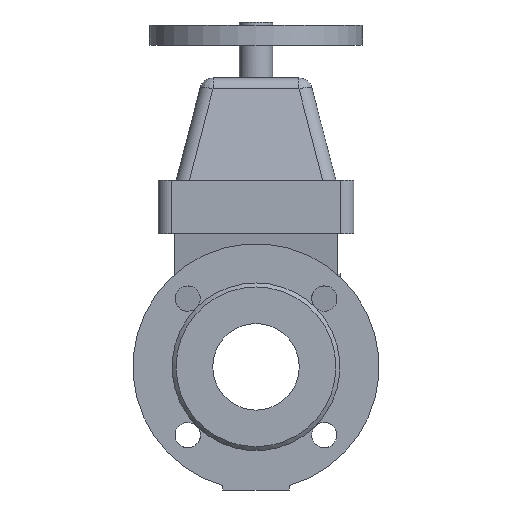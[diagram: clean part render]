
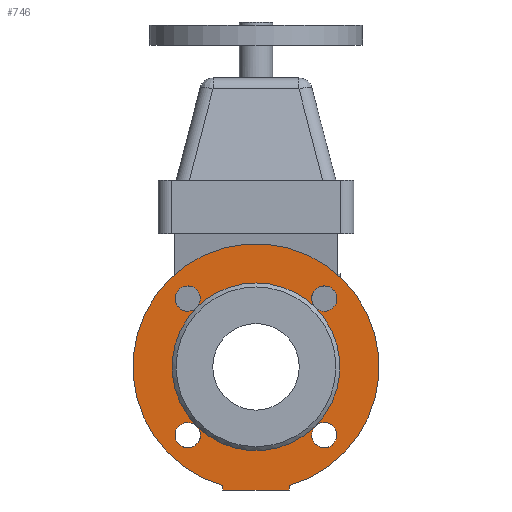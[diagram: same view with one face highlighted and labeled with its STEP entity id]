
A CAD part, front view. The second image highlights one B-rep face of the part: STEP entity #746.
In plain terms, the highlighted planar face has unit normal (0, -1, 0).
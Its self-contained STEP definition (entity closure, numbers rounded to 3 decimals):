
#746=ADVANCED_FACE('',(#1757,#1759,#1761,#1763,#1765,#1767),#1769,.T.);
#1757=FACE_BOUND('',#1758,.T.);
#1758=EDGE_LOOP('',(#2284,#2285,#2286,#2287));
#1759=FACE_BOUND('',#1760,.T.);
#1760=EDGE_LOOP('',(#2288));
#1761=FACE_BOUND('',#1762,.T.);
#1762=EDGE_LOOP('',(#2289));
#1763=FACE_BOUND('',#1764,.T.);
#1764=EDGE_LOOP('',(#2290));
#1765=FACE_BOUND('',#1766,.T.);
#1766=EDGE_LOOP('',(#2291));
#1767=FACE_BOUND('',#1768,.T.);
#1768=EDGE_LOOP('',(#2292));
#1769=PLANE('',#1770);
#1770=AXIS2_PLACEMENT_3D('',#1771,#1772,#1773);
#1771=CARTESIAN_POINT('',(0.,-132.,0.));
#1772=DIRECTION('',(0.,-1.,0.));
#1773=DIRECTION('',(0.,0.,1.));
#2284=ORIENTED_EDGE('',*,*,#2502,.T.);
#2285=ORIENTED_EDGE('',*,*,#2501,.F.);
#2286=ORIENTED_EDGE('',*,*,#2498,.F.);
#2287=ORIENTED_EDGE('',*,*,#2497,.F.);
#2288=ORIENTED_EDGE('',*,*,#2505,.T.);
#2289=ORIENTED_EDGE('',*,*,#2503,.T.);
#2290=ORIENTED_EDGE('',*,*,#2506,.T.);
#2291=ORIENTED_EDGE('',*,*,#2504,.T.);
#2292=ORIENTED_EDGE('',*,*,#2520,.T.);
#2497=EDGE_CURVE('',#2817,#2815,#2819,.T.);
#2498=EDGE_CURVE('',#2815,#2820,#2821,.T.);
#2501=EDGE_CURVE('',#2820,#2823,#2825,.T.);
#2502=EDGE_CURVE('',#2817,#2823,#2826,.T.);
#2503=EDGE_CURVE('',#2827,#2827,#2828,.F.);
#2504=EDGE_CURVE('',#2829,#2829,#2830,.F.);
#2505=EDGE_CURVE('',#2831,#2831,#2832,.F.);
#2506=EDGE_CURVE('',#2833,#2833,#2834,.F.);
#2520=EDGE_CURVE('',#2853,#2853,#2854,.T.);
#2815=VERTEX_POINT('',#3548);
#2817=VERTEX_POINT('',#3552);
#2819=CIRCLE('',#3556,92.5);
#2820=VERTEX_POINT('',#3560);
#2821=LINE('',#3561,#3562);
#2823=VERTEX_POINT('',#3567);
#2825=LINE('',#3571,#3572);
#2826=LINE('',#3574,#3575);
#2827=VERTEX_POINT('',#3577);
#2828=CIRCLE('',#3578,9.5);
#2829=VERTEX_POINT('',#3582);
#2830=CIRCLE('',#3583,9.5);
#2831=VERTEX_POINT('',#3587);
#2832=CIRCLE('',#3588,9.5);
#2833=VERTEX_POINT('',#3592);
#2834=CIRCLE('',#3593,9.5);
#2853=VERTEX_POINT('',#3650);
#2854=CIRCLE('',#3651,63.);
#3548=CARTESIAN_POINT('',(25.,-132.,-89.058));
#3552=CARTESIAN_POINT('',(-25.,-132.,-89.058));
#3556=AXIS2_PLACEMENT_3D('',#3557,#3558,#3559);
#3557=CARTESIAN_POINT('',(0.,-132.,0.));
#3558=DIRECTION('',(0.,1.,0.));
#3559=DIRECTION('',(-0.27,0.,-0.963));
#3560=CARTESIAN_POINT('',(25.,-132.,-92.5));
#3561=CARTESIAN_POINT('',(25.,-132.,-89.058));
#3562=VECTOR('',#3563,1.);
#3563=DIRECTION('',(0.,0.,-1.));
#3567=CARTESIAN_POINT('',(-25.,-132.,-92.5));
#3571=CARTESIAN_POINT('',(25.,-132.,-92.5));
#3572=VECTOR('',#3573,1.);
#3573=DIRECTION('',(-1.,0.,0.));
#3574=CARTESIAN_POINT('',(-25.,-132.,-89.058));
#3575=VECTOR('',#3576,1.);
#3576=DIRECTION('',(0.,0.,-1.));
#3577=CARTESIAN_POINT('',(-41.765,-132.,51.265));
#3578=AXIS2_PLACEMENT_3D('',#3579,#3580,#3581);
#3579=CARTESIAN_POINT('',(-51.265,-132.,51.265));
#3580=DIRECTION('',(0.,-1.,0.));
#3581=DIRECTION('',(1.,0.,0.));
#3582=CARTESIAN_POINT('',(-51.265,-132.,-41.765));
#3583=AXIS2_PLACEMENT_3D('',#3584,#3585,#3586);
#3584=CARTESIAN_POINT('',(-51.265,-132.,-51.265));
#3585=DIRECTION('',(0.,-1.,0.));
#3586=DIRECTION('',(0.,0.,1.));
#3587=CARTESIAN_POINT('',(41.765,-132.,-51.265));
#3588=AXIS2_PLACEMENT_3D('',#3589,#3590,#3591);
#3589=CARTESIAN_POINT('',(51.265,-132.,-51.265));
#3590=DIRECTION('',(0.,-1.,0.));
#3591=DIRECTION('',(-1.,0.,0.));
#3592=CARTESIAN_POINT('',(51.265,-132.,41.765));
#3593=AXIS2_PLACEMENT_3D('',#3594,#3595,#3596);
#3594=CARTESIAN_POINT('',(51.265,-132.,51.265));
#3595=DIRECTION('',(0.,-1.,0.));
#3596=DIRECTION('',(0.,0.,-1.));
#3650=CARTESIAN_POINT('',(0.,-132.,63.));
#3651=AXIS2_PLACEMENT_3D('',#3652,#3653,#3654);
#3652=CARTESIAN_POINT('',(0.,-132.,0.));
#3653=DIRECTION('',(0.,1.,0.));
#3654=DIRECTION('',(0.,0.,1.));
